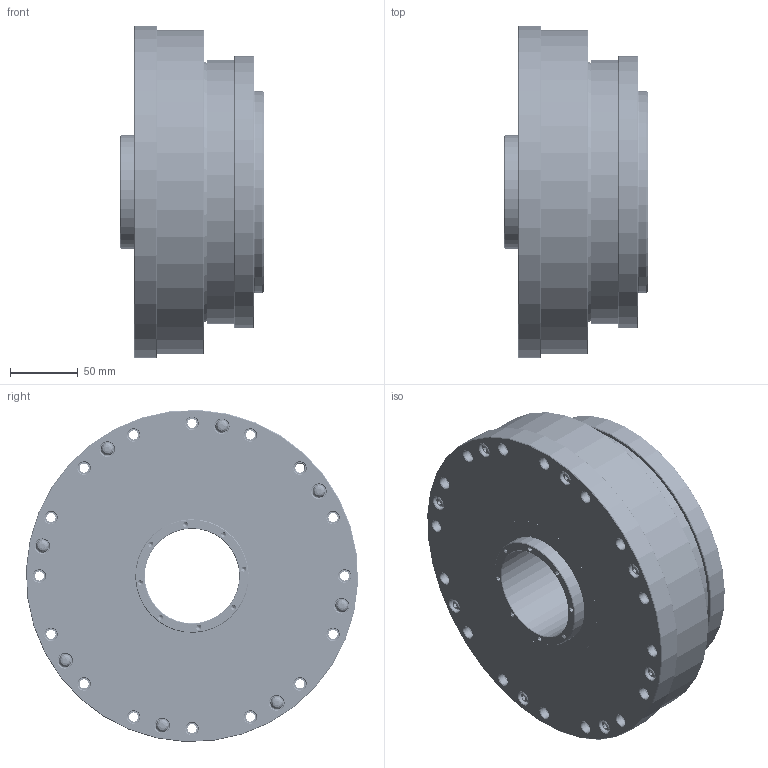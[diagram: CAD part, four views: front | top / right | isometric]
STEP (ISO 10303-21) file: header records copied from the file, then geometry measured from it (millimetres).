
FILE_DESCRIPTION(/* description */ (''),/* implementation_level */ '2;1');
FILE_NAME(/* name */ 'XBK58成品图.stp',/* time_stamp */ '2022-07-21T18:10:22+08:00',/* author */ (''),/* organization */ (''),/* preprocessor_version */ 'ST-DEVELOPER v16',/* originating_system */ 'SIEMENS PLM Software NX 10.0',/* authorisation */ '');
FILE_SCHEMA (('CONFIG_CONTROL_DESIGN'));
Length unit declared in the file: millimetre
Products named in the file (18): M5X16; XBK58-4-1-1销子; YM5X18; XBK58-7下盖板; XBK58-2柔轮; M6X38; D1932129; 6817ZZ; S84945; 6917ZZ; s8511012; 58-柔性轴承（国标）; XBK58-3-1凸轮; XBK58-6上盖板; XBK58-1钢轮; XBK58-4-1内芯; XBK58-4-2外圈; XBK58成品图
Assembly tree (29 placements, depth 2):
  XBK58成品图
    XBK58-4-2外圈
    XBK58-4-1内芯
    XBK58-1钢轮
    XBK58-6上盖板
    XBK58-3-1凸轮
    58-柔性轴承（国标）
    s8511012
    6917ZZ
    S84945
    6817ZZ
    D1932129
    M6X38  x6
    XBK58-2柔轮
    XBK58-7下盖板
    YM5X18  x8
    XBK58-4-1-1销子
    M5X16
Bounding box: 106 x 245.77 x 245.77 mm (x, y, z)
Volume: 2131967.9 mm3; surface area: 812760.5 mm2
Topology: 44 solids, 53 shells, 1637 faces, 4349 edges, 2839 vertices
Faces by surface type: cylinder 728, plane 374, cone 368, bspline 136, sphere 23, torus 8
Full cylindrical faces by diameter (mm): 4.2 x104, 5 x171, 5.5 x17, 6 x174, 6.6 x12, 6.8 x16, 8.72 x1, 9 x32, 9.5 x1, 10.22 x6, 10.5 x8, 11 x24, 11.5 x12, 70 x2, 70.5 x1, 81.5 x1, 84 x3, 85 x6, 90 x1, 91.5 x1, 94 x2, 103 x1, 105 x2, 107 x1, 110 x4, 110.7 x2, 120 x3, 124 x1, 124.5 x1, 134.3 x2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
Entity records: 162327 total; most frequent: CARTESIAN_POINT 141296, DIRECTION 3625, ORIENTED_EDGE 3160, EDGE_LOOP 1725, AXIS2_PLACEMENT_3D 1685, EDGE_CURVE 1580, FACE_BOUND 1469, VERTEX_POINT 1329
